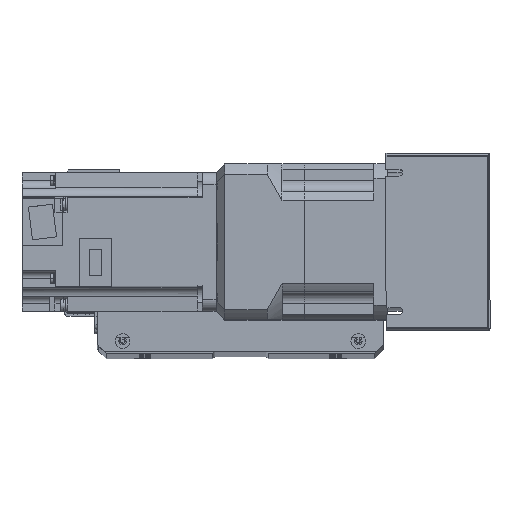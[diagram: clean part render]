
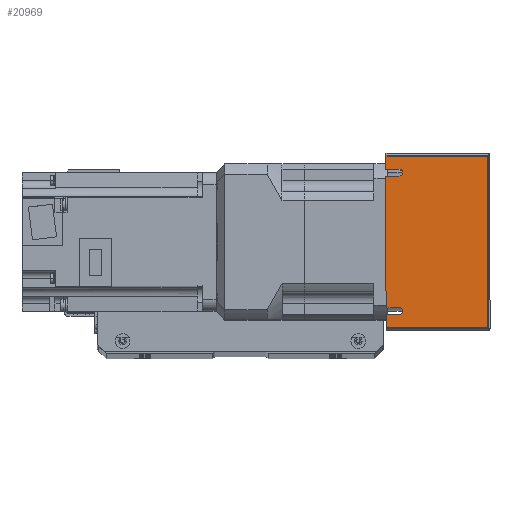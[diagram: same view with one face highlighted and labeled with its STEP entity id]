
A CAD part, top view. The second image highlights one B-rep face of the part: STEP entity #20969.
In plain terms, the highlighted planar face has unit normal (0, 0, 1) as drawn and (-1, 0, 0) by its records, which use the part's own axes.
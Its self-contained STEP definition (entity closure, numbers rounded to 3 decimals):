
#560=PLANE('',#22841);
#1648=LINE('',#33310,#3308);
#1654=LINE('',#33324,#3314);
#1666=LINE('',#33351,#3326);
#1676=LINE('',#33373,#3336);
#1684=LINE('',#33392,#3344);
#1685=LINE('',#33395,#3345);
#1686=LINE('',#33397,#3346);
#1687=LINE('',#33399,#3347);
#1688=LINE('',#33401,#3348);
#1689=LINE('',#33402,#3349);
#3308=VECTOR('',#27111,10.);
#3314=VECTOR('',#27121,10.);
#3326=VECTOR('',#27139,10.);
#3336=VECTOR('',#27153,10.);
#3344=VECTOR('',#27175,10.);
#3345=VECTOR('',#27178,10.);
#3346=VECTOR('',#27179,10.);
#3347=VECTOR('',#27180,10.);
#3348=VECTOR('',#27181,10.);
#3349=VECTOR('',#27182,10.);
#5386=FACE_OUTER_BOUND('',#6870,.T.);
#6870=EDGE_LOOP('',(#16322,#16323,#16324,#16325,#16326,#16327,#16328,#16329,
#16330,#16331,#16332,#16333));
#8324=CIRCLE('',#22837,2.);
#8327=CIRCLE('',#22842,2.);
#9777=VERTEX_POINT('',#33307);
#9778=VERTEX_POINT('',#33309);
#9783=VERTEX_POINT('',#33322);
#9784=VERTEX_POINT('',#33323);
#9795=VERTEX_POINT('',#33349);
#9796=VERTEX_POINT('',#33350);
#9805=VERTEX_POINT('',#33370);
#9806=VERTEX_POINT('',#33372);
#9811=VERTEX_POINT('',#33394);
#9812=VERTEX_POINT('',#33396);
#9813=VERTEX_POINT('',#33398);
#9814=VERTEX_POINT('',#33400);
#12145=EDGE_CURVE('',#9777,#9778,#1648,.T.);
#12151=EDGE_CURVE('',#9783,#9784,#1654,.T.);
#12163=EDGE_CURVE('',#9795,#9796,#1666,.T.);
#12173=EDGE_CURVE('',#9805,#9806,#1676,.T.);
#12176=EDGE_CURVE('',#9784,#9777,#8324,.T.);
#12185=EDGE_CURVE('',#9783,#9806,#1684,.T.);
#12186=EDGE_CURVE('',#9796,#9805,#8327,.T.);
#12187=EDGE_CURVE('',#9795,#9811,#1685,.T.);
#12188=EDGE_CURVE('',#9811,#9812,#1686,.T.);
#12189=EDGE_CURVE('',#9812,#9813,#1687,.T.);
#12190=EDGE_CURVE('',#9813,#9814,#1688,.T.);
#12191=EDGE_CURVE('',#9814,#9778,#1689,.T.);
#16322=ORIENTED_EDGE('',*,*,#12145,.F.);
#16323=ORIENTED_EDGE('',*,*,#12176,.F.);
#16324=ORIENTED_EDGE('',*,*,#12151,.F.);
#16325=ORIENTED_EDGE('',*,*,#12185,.T.);
#16326=ORIENTED_EDGE('',*,*,#12173,.F.);
#16327=ORIENTED_EDGE('',*,*,#12186,.F.);
#16328=ORIENTED_EDGE('',*,*,#12163,.F.);
#16329=ORIENTED_EDGE('',*,*,#12187,.T.);
#16330=ORIENTED_EDGE('',*,*,#12188,.T.);
#16331=ORIENTED_EDGE('',*,*,#12189,.T.);
#16332=ORIENTED_EDGE('',*,*,#12190,.T.);
#16333=ORIENTED_EDGE('',*,*,#12191,.T.);
#20969=ADVANCED_FACE('',(#5386),#560,.F.);
#22837=AXIS2_PLACEMENT_3D('',#33377,#27159,#27160);
#22841=AXIS2_PLACEMENT_3D('',#33391,#27173,#27174);
#22842=AXIS2_PLACEMENT_3D('',#33393,#27176,#27177);
#27111=DIRECTION('',(0.,0.,-1.));
#27121=DIRECTION('',(0.,0.,1.));
#27139=DIRECTION('',(0.,0.,1.));
#27153=DIRECTION('',(0.,0.,-1.));
#27159=DIRECTION('center_axis',(-1.,0.,0.));
#27160=DIRECTION('ref_axis',(0.,0.,1.));
#27173=DIRECTION('center_axis',(1.,0.,0.));
#27174=DIRECTION('ref_axis',(0.,-1.,0.));
#27175=DIRECTION('',(0.,-1.,0.));
#27176=DIRECTION('center_axis',(-1.,0.,0.));
#27177=DIRECTION('ref_axis',(0.,0.,1.));
#27178=DIRECTION('',(0.,-1.,0.));
#27179=DIRECTION('',(0.,0.,1.));
#27180=DIRECTION('',(0.,1.,0.));
#27181=DIRECTION('',(0.,0.,-1.));
#27182=DIRECTION('',(0.,-1.,0.));
#33307=CARTESIAN_POINT('',(-120.5,42.,-22.5));
#33309=CARTESIAN_POINT('',(-120.5,42.,-30.));
#33310=CARTESIAN_POINT('',(-120.5,42.,-16.304));
#33322=CARTESIAN_POINT('',(-120.5,38.,-30.));
#33323=CARTESIAN_POINT('',(-120.5,38.,-22.5));
#33324=CARTESIAN_POINT('',(-120.5,38.,-11.25));
#33349=CARTESIAN_POINT('',(-120.5,-42.,-30.));
#33350=CARTESIAN_POINT('',(-120.5,-42.,-22.5));
#33351=CARTESIAN_POINT('',(-120.5,-42.,-11.25));
#33370=CARTESIAN_POINT('',(-120.5,-38.,-22.5));
#33372=CARTESIAN_POINT('',(-120.5,-38.,-30.));
#33373=CARTESIAN_POINT('',(-120.5,-38.,-16.169));
#33377=CARTESIAN_POINT('Origin',(-120.5,40.,-22.5));
#33391=CARTESIAN_POINT('Origin',(-120.5,51.,0.));
#33392=CARTESIAN_POINT('',(-120.5,-51.,-30.));
#33393=CARTESIAN_POINT('Origin',(-120.5,-40.,-22.5));
#33394=CARTESIAN_POINT('',(-120.5,-50.,-30.));
#33395=CARTESIAN_POINT('',(-120.5,-51.,-30.));
#33396=CARTESIAN_POINT('',(-120.5,-50.,29.));
#33397=CARTESIAN_POINT('',(-120.5,-50.,0.));
#33398=CARTESIAN_POINT('',(-120.5,50.,29.));
#33399=CARTESIAN_POINT('',(-120.5,25.5,29.));
#33400=CARTESIAN_POINT('',(-120.5,50.,-30.));
#33401=CARTESIAN_POINT('',(-120.5,50.,0.));
#33402=CARTESIAN_POINT('',(-120.5,-51.,-30.));
